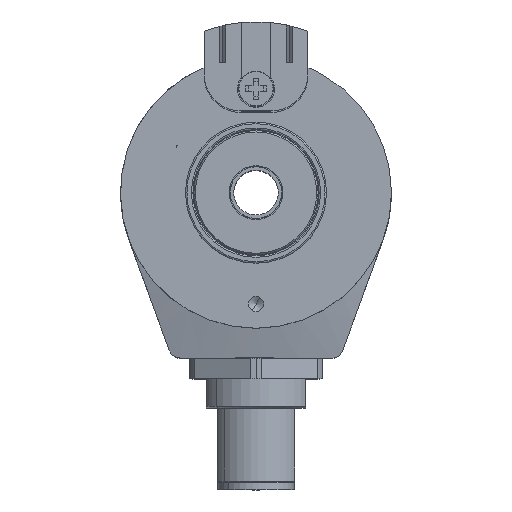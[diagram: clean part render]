
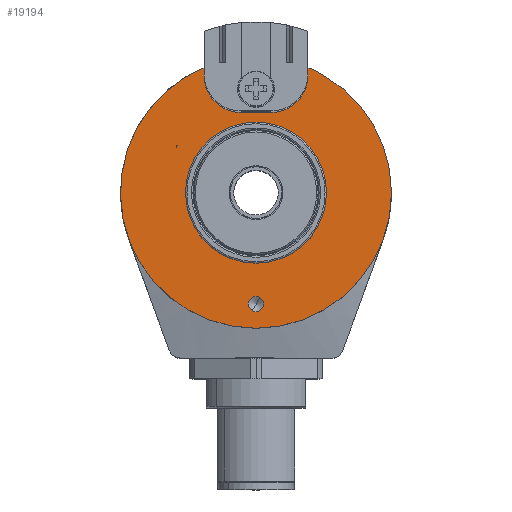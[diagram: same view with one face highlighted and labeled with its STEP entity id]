
A CAD part, top view. The second image highlights one B-rep face of the part: STEP entity #19194.
In plain terms, the highlighted planar face has unit normal (0, 0, 1).
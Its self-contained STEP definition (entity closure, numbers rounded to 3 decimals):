
#6158 = VERTEX_POINT ( 'NONE', #7699 ) ;
#6171 = VERTEX_POINT ( 'NONE', #7713 ) ;
#6182 = VERTEX_POINT ( 'NONE', #7720 ) ;
#6202 = VERTEX_POINT ( 'NONE', #7736 ) ;
#6211 = VERTEX_POINT ( 'NONE', #7745 ) ;
#6221 = VERTEX_POINT ( 'NONE', #7755 ) ;
#6286 = VERTEX_POINT ( 'NONE', #7818 ) ;
#6333 = VERTEX_POINT ( 'NONE', #7864 ) ;
#6338 = VERTEX_POINT ( 'NONE', #7869 ) ;
#6341 = VERTEX_POINT ( 'NONE', #7873 ) ;
#6346 = VERTEX_POINT ( 'NONE', #7878 ) ;
#6355 = VERTEX_POINT ( 'NONE', #7887 ) ;
#6369 = VERTEX_POINT ( 'NONE', #7900 ) ;
#6896 = AXIS2_PLACEMENT_3D ( 'NONE', #9761, #9762, #9763 ) ;
#7072 = AXIS2_PLACEMENT_3D ( 'NONE', #11351, #11352, #11353 ) ;
#7079 = AXIS2_PLACEMENT_3D ( 'NONE', #11370, #11371, #11372 ) ;
#7084 = AXIS2_PLACEMENT_3D ( 'NONE', #11376, #11377, #11378 ) ;
#7093 = AXIS2_PLACEMENT_3D ( 'NONE', #11400, #11401, #11402 ) ;
#7108 = AXIS2_PLACEMENT_3D ( 'NONE', #11428, #11429, #11430 ) ;
#7122 = AXIS2_PLACEMENT_3D ( 'NONE', #11456, #11457, #11458 ) ;
#7141 = AXIS2_PLACEMENT_3D ( 'NONE', #11490, #11491, #11492 ) ;
#7144 = AXIS2_PLACEMENT_3D ( 'NONE', #11499, #11500, #11501 ) ;
#7151 = AXIS2_PLACEMENT_3D ( 'NONE', #11508, #11509, #11510 ) ;
#7180 = AXIS2_PLACEMENT_3D ( 'NONE', #11564, #11565, #11566 ) ;
#7699 = CARTESIAN_POINT ( 'NONE',  ( -4.5, 11.47, 0. ) ) ;
#7713 = CARTESIAN_POINT ( 'NONE',  ( -7., 15.8, 0. ) ) ;
#7720 = CARTESIAN_POINT ( 'NONE',  ( 7., 16.854, 0. ) ) ;
#7736 = CARTESIAN_POINT ( 'NONE',  ( 9.125, 15.805, 0. ) ) ;
#7745 = CARTESIAN_POINT ( 'NONE',  ( -7., 16.854, 0. ) ) ;
#7755 = CARTESIAN_POINT ( 'NONE',  ( 2., 10.8, 0. ) ) ;
#7818 = CARTESIAN_POINT ( 'NONE',  ( 7., 15.8, 0. ) ) ;
#7864 = CARTESIAN_POINT ( 'NONE',  ( -9.125, -15.805, 0. ) ) ;
#7869 = CARTESIAN_POINT ( 'NONE',  ( 0.513, -14.112, 0. ) ) ;
#7873 = CARTESIAN_POINT ( 'NONE',  ( 4.75, 8.227, 0. ) ) ;
#7878 = CARTESIAN_POINT ( 'NONE',  ( -0.512, -15.888, 0. ) ) ;
#7887 = CARTESIAN_POINT ( 'NONE',  ( -4.75, -8.227, 0. ) ) ;
#7900 = CARTESIAN_POINT ( 'NONE',  ( -2., 10.8, 0. ) ) ;
#9760 = PLANE ( 'NONE',  #6896 ) ;
#9761 = CARTESIAN_POINT ( 'NONE',  ( 0., 0., 0. ) ) ;
#9762 = DIRECTION ( 'NONE',  ( 0., 0., 1. ) ) ;
#9763 = DIRECTION ( 'NONE',  ( 0.5, 0.866, 0. ) ) ;
#10579 = FACE_OUTER_BOUND ( 'NONE', #15274, .T. ) ;
#10580 = FACE_BOUND ( 'NONE', #15284, .T. ) ;
#10581 = FACE_BOUND ( 'NONE', #15297, .T. ) ;
#10793 = CIRCLE ( 'NONE', #7072, 18.25 ) ;
#10805 = CIRCLE ( 'NONE', #7079, 9.5 ) ;
#10808 = CIRCLE ( 'NONE', #7084, 1.025 ) ;
#10823 = CIRCLE ( 'NONE', #7093, 18.25 ) ;
#10840 = CIRCLE ( 'NONE', #7108, 5. ) ;
#10850 = LINE ( 'NONE', #11448, #10852 ) ;
#10852 = VECTOR ( 'NONE', #11449, 1000. ) ;
#10855 = CIRCLE ( 'NONE', #7122, 5. ) ;
#10858 = LINE ( 'NONE', #11468, #10860 ) ;
#10860 = VECTOR ( 'NONE', #11469, 1000. ) ;
#10864 = LINE ( 'NONE', #11478, #10866 ) ;
#10866 = VECTOR ( 'NONE', #11479, 1000. ) ;
#10874 = CIRCLE ( 'NONE', #7141, 1.025 ) ;
#10880 = CIRCLE ( 'NONE', #7144, 5. ) ;
#10884 = CIRCLE ( 'NONE', #7151, 9.5 ) ;
#10915 = CIRCLE ( 'NONE', #7180, 18.25 ) ;
#11351 = CARTESIAN_POINT ( 'NONE',  ( 0., 0., 0. ) ) ;
#11352 = DIRECTION ( 'NONE',  ( 0., 0., 1. ) ) ;
#11353 = DIRECTION ( 'NONE',  ( 0.5, 0.866, 0. ) ) ;
#11370 = CARTESIAN_POINT ( 'NONE',  ( 0., 0., 0. ) ) ;
#11371 = DIRECTION ( 'NONE',  ( 0., 0., 1. ) ) ;
#11372 = DIRECTION ( 'NONE',  ( 0.5, 0.866, 0. ) ) ;
#11376 = CARTESIAN_POINT ( 'NONE',  ( 0., -15., 0. ) ) ;
#11377 = DIRECTION ( 'NONE',  ( 0., 0., 1. ) ) ;
#11378 = DIRECTION ( 'NONE',  ( 0.5, 0.866, 0. ) ) ;
#11400 = CARTESIAN_POINT ( 'NONE',  ( 0., 0., 0. ) ) ;
#11401 = DIRECTION ( 'NONE',  ( 0., 0., 1. ) ) ;
#11402 = DIRECTION ( 'NONE',  ( 0.5, 0.866, 0. ) ) ;
#11428 = CARTESIAN_POINT ( 'NONE',  ( -2., 15.8, 0. ) ) ;
#11429 = DIRECTION ( 'NONE',  ( 0., 0., -1. ) ) ;
#11430 = DIRECTION ( 'NONE',  ( 0.5, 0.866, 0. ) ) ;
#11448 = CARTESIAN_POINT ( 'NONE',  ( 7., 16.854, 0. ) ) ;
#11449 = DIRECTION ( 'NONE',  ( 0., 1., 0. ) ) ;
#11456 = CARTESIAN_POINT ( 'NONE',  ( -2., 15.8, 0. ) ) ;
#11457 = DIRECTION ( 'NONE',  ( 0., 0., -1. ) ) ;
#11458 = DIRECTION ( 'NONE',  ( 0.5, 0.866, 0. ) ) ;
#11468 = CARTESIAN_POINT ( 'NONE',  ( -7., 16.854, 0. ) ) ;
#11469 = DIRECTION ( 'NONE',  ( 0., -1., 0. ) ) ;
#11478 = CARTESIAN_POINT ( 'NONE',  ( -7., 10.8, 0. ) ) ;
#11479 = DIRECTION ( 'NONE',  ( 1., 0., 0. ) ) ;
#11490 = CARTESIAN_POINT ( 'NONE',  ( 0., -15., 0. ) ) ;
#11491 = DIRECTION ( 'NONE',  ( 0., 0., 1. ) ) ;
#11492 = DIRECTION ( 'NONE',  ( 0.5, 0.866, 0. ) ) ;
#11499 = CARTESIAN_POINT ( 'NONE',  ( 2., 15.8, 0. ) ) ;
#11500 = DIRECTION ( 'NONE',  ( 0., 0., -1. ) ) ;
#11501 = DIRECTION ( 'NONE',  ( 0.5, 0.866, 0. ) ) ;
#11508 = CARTESIAN_POINT ( 'NONE',  ( 0., 0., 0. ) ) ;
#11509 = DIRECTION ( 'NONE',  ( 0., 0., 1. ) ) ;
#11510 = DIRECTION ( 'NONE',  ( 0.5, 0.866, 0. ) ) ;
#11564 = CARTESIAN_POINT ( 'NONE',  ( 0., 0., 0. ) ) ;
#11565 = DIRECTION ( 'NONE',  ( 0., 0., 1. ) ) ;
#11566 = DIRECTION ( 'NONE',  ( 0.5, 0.866, 0. ) ) ;
#15274 = EDGE_LOOP ( 'NONE', ( #18476, #18477, #18478, #18479, #18480, #18481, #18482, #18483, #18484 ) ) ;
#15284 = EDGE_LOOP ( 'NONE', ( #18485, #18486 ) ) ;
#15297 = EDGE_LOOP ( 'NONE', ( #18487, #18488 ) ) ;
#18476 = ORIENTED_EDGE ( 'NONE', *, *, #19348, .F. ) ;
#18477 = ORIENTED_EDGE ( 'NONE', *, *, #19368, .T. ) ;
#18478 = ORIENTED_EDGE ( 'NONE', *, *, #19359, .F. ) ;
#18479 = ORIENTED_EDGE ( 'NONE', *, *, #19351, .T. ) ;
#18480 = ORIENTED_EDGE ( 'NONE', *, *, #19340, .T. ) ;
#18481 = ORIENTED_EDGE ( 'NONE', *, *, #19355, .F. ) ;
#18482 = ORIENTED_EDGE ( 'NONE', *, *, #19329, .T. ) ;
#18483 = ORIENTED_EDGE ( 'NONE', *, *, #19393, .T. ) ;
#18484 = ORIENTED_EDGE ( 'NONE', *, *, #19309, .T. ) ;
#18485 = ORIENTED_EDGE ( 'NONE', *, *, #19364, .F. ) ;
#18486 = ORIENTED_EDGE ( 'NONE', *, *, #19319, .F. ) ;
#18487 = ORIENTED_EDGE ( 'NONE', *, *, #19371, .F. ) ;
#18488 = ORIENTED_EDGE ( 'NONE', *, *, #19317, .F. ) ;
#19194 = ADVANCED_FACE ( 'NONE', ( #10579, #10580, #10581 ), #9760, .T. ) ;
#19309 = EDGE_CURVE ( 'NONE', #6202, #6182, #10793, .T. ) ;
#19317 = EDGE_CURVE ( 'NONE', #6355, #6341, #10805, .T. ) ;
#19319 = EDGE_CURVE ( 'NONE', #6346, #6338, #10808, .T. ) ;
#19329 = EDGE_CURVE ( 'NONE', #6211, #6333, #10823, .T. ) ;
#19340 = EDGE_CURVE ( 'NONE', #6158, #6171, #10840, .T. ) ;
#19348 = EDGE_CURVE ( 'NONE', #6286, #6182, #10850, .T. ) ;
#19351 = EDGE_CURVE ( 'NONE', #6369, #6158, #10855, .T. ) ;
#19355 = EDGE_CURVE ( 'NONE', #6211, #6171, #10858, .T. ) ;
#19359 = EDGE_CURVE ( 'NONE', #6369, #6221, #10864, .T. ) ;
#19364 = EDGE_CURVE ( 'NONE', #6338, #6346, #10874, .T. ) ;
#19368 = EDGE_CURVE ( 'NONE', #6286, #6221, #10880, .T. ) ;
#19371 = EDGE_CURVE ( 'NONE', #6341, #6355, #10884, .T. ) ;
#19393 = EDGE_CURVE ( 'NONE', #6333, #6202, #10915, .T. ) ;
